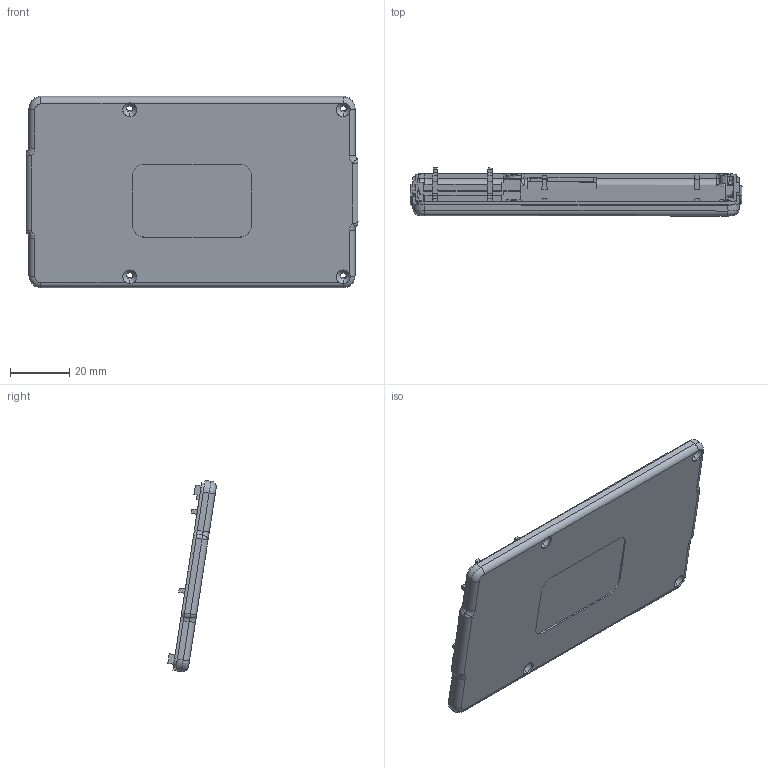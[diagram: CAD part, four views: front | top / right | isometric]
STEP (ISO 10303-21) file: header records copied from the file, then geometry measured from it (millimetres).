
FILE_DESCRIPTION (( 'STEP AP214' ), '1' );
FILE_NAME ('base 37.STEP', '2021-11-29T13:25:12', ( '' ), ( '' ), 'SwSTEP 2.0', 'SolidWorks 2021', '' );
FILE_SCHEMA (( 'AUTOMOTIVE_DESIGN' ));
Length unit declared in the file: millimetre
Products named in the file (1): base 37
Bounding box: 112 x 16.32 x 64.57 mm (x, y, z)
Volume: 13553.6 mm3; surface area: 18163.1 mm2
Topology: 1 solids, 1 shells, 322 faces, 898 edges, 574 vertices
Faces by surface type: plane 181, cylinder 102, torus 16, cone 8, bspline 8, sphere 7
Entity records: 10711 total; most frequent: CARTESIAN_POINT 2511, ORIENTED_EDGE 1784, DIRECTION 1635, EDGE_CURVE 892, LINE 629, VECTOR 629, VERTEX_POINT 571, AXIS2_PLACEMENT_3D 503
